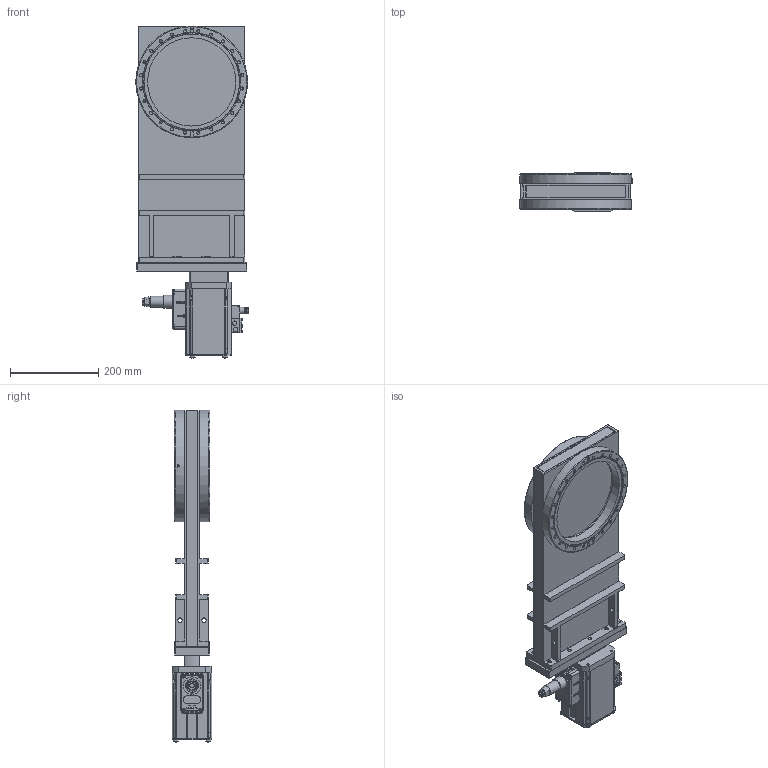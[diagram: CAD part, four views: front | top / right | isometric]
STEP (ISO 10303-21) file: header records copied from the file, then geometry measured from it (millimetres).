
FILE_DESCRIPTION(/* description */ (''),/* implementation_level */ '2;1');
FILE_NAME(/* name */ '1095738562_203.stp',/* time_stamp */ '2017-07-11T15:41:14+02:00',/* author */ (''),/* organization */ (''),/* preprocessor_version */ 'ST-DEVELOPER v15',/* originating_system */ 'SIEMENS PLM Software NX 9.0',/* authorisation */ '');
FILE_SCHEMA (('AP203_CONFIGURATION_CONTROLLED_3D_DESIGN_OF_MECHANICAL_PARTS_AND_ASSEMBLIES_MIM_LF { 1 0 10303 403 2 1 2}'));
Length unit declared in the file: millimetre
Products named in the file (48): 467882; 437235; n-6197-034.1; n-7100-007.2; 395614; 94220-01.1; 94224-01.2; 834044_36458ID; 834044_36477ID; 834044_36476ID; 834044_36475ID; 834046_36474ID; 834046_36473ID; 834046_36472ID; 834046_36471ID; 834014_36469ID; 834014_36468ID; 834006_36466ID; 834001_36464ID; 834001_36463ID; 833986_36461ID; 833986_36460ID; N-7557-016_1.1; N-7557-018.1; N-7557-016_2.1; N-6024-524.1; N-5018-005.1; N-6024-571.1; 85949-01.1; 67114-01.1; n-6099-511.1; 25838-01_1.1_28449ID; 25838-01_1.1_28445ID; 65313-01.1; 570870; 74628-01.3; n-6024-548.1; 70973-01.1; n-8504-002; 69130-01.2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
Assembly tree (73 placements, depth 4):
  899066
    889790
      834047
        833986_36460ID
        833986_36461ID
        834001_36463ID
        834001_36464ID
        834006_36466ID
        834014_36468ID
        834014_36469ID
        834046_36471ID
        834046_36472ID
        834046_36473ID
        834046_36474ID
        834044_36475ID
        834044_36476ID
        834044_36477ID
        834044_36458ID
      25838-01_1.1_28445ID
      25838-01_1.1_28449ID
      n-6099-511.1  x2
    94237-r1.2
      67114-01.1  x4
      85949-01.1
      N-6024-571.1  x4
      395615
        94224-01.2
        94220-01.1
        395614
        n-7100-007.2  x2
        n-6197-034.1
    778871  x10
    69130-01.2
    n-8504-002
    70973-01.1
    n-6024-548.1  x4
    74628-01.3
    570870
    65313-01.1
    94800-r1.7_NX-ARRAGMNTKONFIG1
      N-5018-005.1  x2
      N-6024-524.1  x6
      N-7557-016_2.1
      N-7557-018.1
      N-7557-016_1.1
      N-7557-016_3.1_MODELNX-ARRAGMNTArrangement 1
        437235
        467882
Bounding box: 254.5 x 90 x 752.45 mm (x, y, z)
Volume: 4215481.2 mm3; surface area: 1134597.4 mm2
Topology: 74 solids, 86 shells, 2921 faces, 7452 edges, 4898 vertices
Faces by surface type: plane 1851, cylinder 609, extrusion 174, cone 143, torus 113, sphere 21, bspline 10
Full cylindrical faces by diameter (mm): 0.7 x1, 0.725 x1, 1.5 x6, 1.66 x7, 2 x3, 2.125 x1, 2.5 x10, 2.65 x1, 3 x13, 3.2 x2, 3.3 x4, 3.4 x4, 3.5 x3, 4 x10, 4.05 x4, 4.2 x2, 4.22 x1, 4.35 x2, 4.4 x4, 4.45 x4, 4.5 x2, 4.625 x2, 5 x11, 5.4 x2, 5.5 x1, 5.8 x1, 5.9 x1, 6 x21, 6.6 x4, 6.85 x4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
Entity records: 87963 total; most frequent: CARTESIAN_POINT 22227, ORIENTED_EDGE 11566, DIRECTION 10808, EDGE_CURVE 5783, VERTEX_POINT 4071, AXIS2_PLACEMENT_3D 3639, VECTOR 3530, LINE 3356
